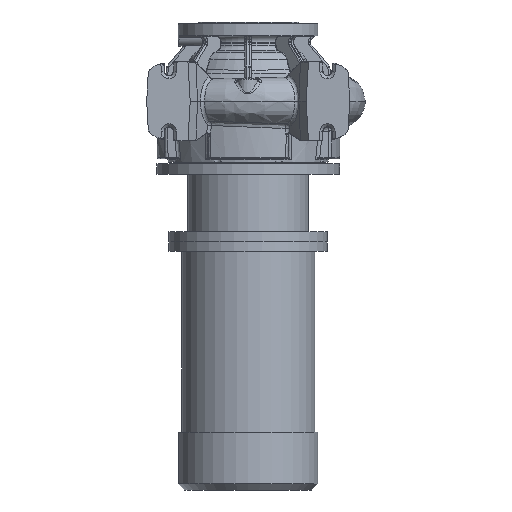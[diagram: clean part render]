
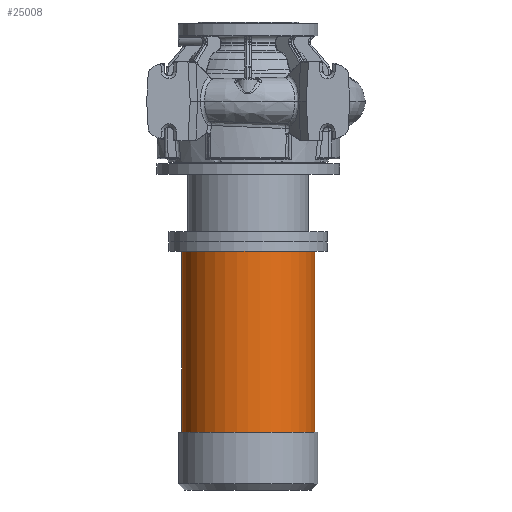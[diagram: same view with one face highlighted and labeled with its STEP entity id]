
A CAD part, front view. The second image highlights one B-rep face of the part: STEP entity #25008.
In plain terms, the highlighted cylindrical face has radius 105 mm (diameter 210 mm), a partial arc.
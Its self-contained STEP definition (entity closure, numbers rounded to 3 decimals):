
#343 = CARTESIAN_POINT ( 'NONE',  ( 0., 0., -236.8 ) ) ;
#2571 = VECTOR ( 'NONE', #75697, 1000. ) ;
#9576 = CARTESIAN_POINT ( 'NONE',  ( 105., 0., -521.8 ) ) ;
#12849 = CARTESIAN_POINT ( 'NONE',  ( 105., 0., -236.8 ) ) ;
#22152 = CARTESIAN_POINT ( 'NONE',  ( -105., 0., -612.8 ) ) ;
#25008 = ADVANCED_FACE ( 'NONE', ( #94725 ), #78383, .T. ) ;
#26378 = DIRECTION ( 'NONE',  ( -1., 0., 0. ) ) ;
#26599 = VECTOR ( 'NONE', #97664, 1000. ) ;
#28201 = ORIENTED_EDGE ( 'NONE', *, *, #108761, .T. ) ;
#28281 = DIRECTION ( 'NONE',  ( 0., 0., -1. ) ) ;
#28676 = CARTESIAN_POINT ( 'NONE',  ( -105., 0., -521.8 ) ) ;
#29160 = AXIS2_PLACEMENT_3D ( 'NONE', #33232, #60332, #41903 ) ;
#29388 = CARTESIAN_POINT ( 'NONE',  ( 0., 0., -521.8 ) ) ;
#33232 = CARTESIAN_POINT ( 'NONE',  ( 0., 0., -612.8 ) ) ;
#36398 = LINE ( 'NONE', #22152, #2571 ) ;
#36999 = DIRECTION ( 'NONE',  ( -1., 0., 0. ) ) ;
#37111 = AXIS2_PLACEMENT_3D ( 'NONE', #343, #112171, #26378 ) ;
#41630 = LINE ( 'NONE', #71531, #26599 ) ;
#41903 = DIRECTION ( 'NONE',  ( -1., 0., 0. ) ) ;
#43414 = CIRCLE ( 'NONE', #52504, 105. ) ;
#52504 = AXIS2_PLACEMENT_3D ( 'NONE', #29388, #28281, #36999 ) ;
#52728 = CIRCLE ( 'NONE', #37111, 105. ) ;
#60332 = DIRECTION ( 'NONE',  ( 0., 0., -1. ) ) ;
#61727 = EDGE_CURVE ( 'NONE', #99490, #106395, #41630, .T. ) ;
#63363 = CARTESIAN_POINT ( 'NONE',  ( -105., 0., -236.8 ) ) ;
#71531 = CARTESIAN_POINT ( 'NONE',  ( 105., 0., -612.8 ) ) ;
#75697 = DIRECTION ( 'NONE',  ( 0., 0., -1. ) ) ;
#78383 = CYLINDRICAL_SURFACE ( 'NONE', #29160, 105. ) ;
#87773 = EDGE_LOOP ( 'NONE', ( #101780, #110601, #28201, #101462 ) ) ;
#88518 = EDGE_CURVE ( 'NONE', #106395, #101529, #43414, .T. ) ;
#94725 = FACE_OUTER_BOUND ( 'NONE', #87773, .T. ) ;
#96098 = VERTEX_POINT ( 'NONE', #63363 ) ;
#97664 = DIRECTION ( 'NONE',  ( 0., 0., -1. ) ) ;
#99490 = VERTEX_POINT ( 'NONE', #12849 ) ;
#101462 = ORIENTED_EDGE ( 'NONE', *, *, #88518, .F. ) ;
#101529 = VERTEX_POINT ( 'NONE', #28676 ) ;
#101780 = ORIENTED_EDGE ( 'NONE', *, *, #61727, .F. ) ;
#106395 = VERTEX_POINT ( 'NONE', #9576 ) ;
#108241 = EDGE_CURVE ( 'NONE', #99490, #96098, #52728, .T. ) ;
#108761 = EDGE_CURVE ( 'NONE', #96098, #101529, #36398, .T. ) ;
#110601 = ORIENTED_EDGE ( 'NONE', *, *, #108241, .T. ) ;
#112171 = DIRECTION ( 'NONE',  ( 0., 0., -1. ) ) ;
